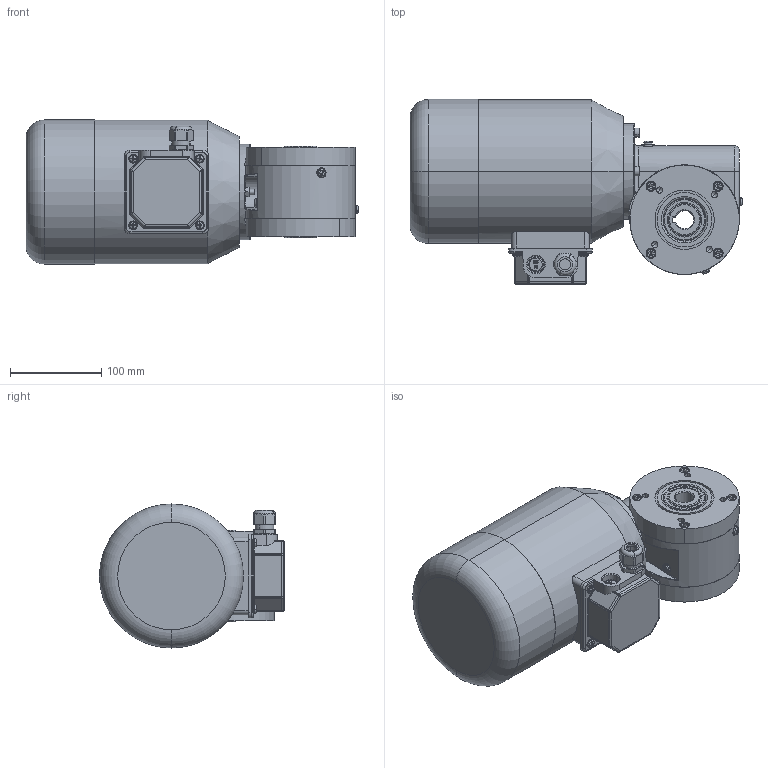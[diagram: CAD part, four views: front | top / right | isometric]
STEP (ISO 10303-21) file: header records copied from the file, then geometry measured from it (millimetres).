
FILE_DESCRIPTION (( 'STEP AP214' ), '1' );
FILE_NAME ('SN8BFH_550W_1400Upm_Drehstrom-Motor_B.STEP', '2021-09-21T06:39:37', ( '' ), ( '' ), 'SwSTEP 2.0', 'SolidWorks 2019', '' );
FILE_SCHEMA (( 'AUTOMOTIVE_DESIGN' ));
Length unit declared in the file: millimetre
Products named in the file (13): 08B-G-003_3D_Export; socket set screw flat point_din_DIN 913 - M6 x 25-C; SN8BFH_550W_1400Upm_Drehstrom-Motor_B; 08FH-W-001_3D_Export; SN8BFH_3D_Export; socket head cap screw_din_DIN 912 M6 x 20 --- 20C; 08BFH-D-008_3D_Export; U-Seal Ring Ø5; hex nut style 1 gradeab_din_Hexagon Nut ISO 4032 - M6 - D - C; Kupferscheibe Ø6x10x1; 08-M-163 I 550W_1400Upm; NBR_WDR_35x47x7; slotted pan head screw_din_DIN EN ISO 1580 - M5 x 6 - 6C
Assembly tree (37 placements, depth 3):
  SN8BFH_550W_1400Upm_Drehstrom-Motor_B
    SN8BFH_3D_Export
      08B-G-003_3D_Export
      08FH-W-001_3D_Export
      08BFH-D-008_3D_Export  x2
      NBR_WDR_35x47x7  x2
      socket head cap screw_din_DIN 912 M6 x 20 --- 20C  x11
      slotted pan head screw_din_DIN EN ISO 1580 - M5 x 6 - 6C  x4
      socket set screw flat point_din_DIN 913 - M6 x 25-C
      hex nut style 1 gradeab_din_Hexagon Nut ISO 4032 - M6 - D - C
      Kupferscheibe Ø6x10x1  x8
      U-Seal Ring Ø5  x4
    08-M-163 I 550W_1400Upm
Bounding box: 364 x 203 x 158 mm (x, y, z)
Volume: 5841350.9 mm3; surface area: 388654.7 mm2
Topology: 37 solids, 37 shells, 1393 faces, 3410 edges, 2114 vertices
Faces by surface type: plane 510, cylinder 472, cone 231, torus 120, bspline 36, sphere 24
Entity records: 32200 total; most frequent: CARTESIAN_POINT 8609, DIRECTION 4864, ORIENTED_EDGE 4832, EDGE_CURVE 2416, AXIS2_PLACEMENT_3D 1927, VERTEX_POINT 1536, EDGE_LOOP 1066, LINE 1010
